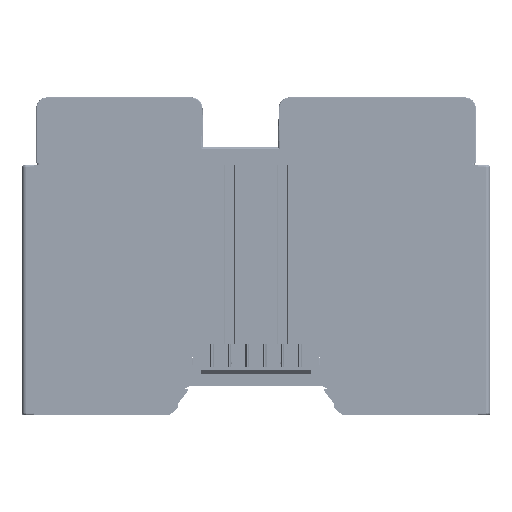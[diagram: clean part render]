
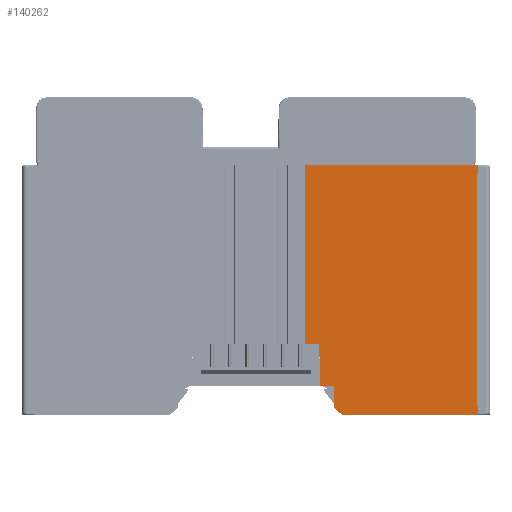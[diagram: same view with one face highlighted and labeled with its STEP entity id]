
A CAD part, left-side view. The second image highlights one B-rep face of the part: STEP entity #140262.
In plain terms, the highlighted planar face has unit normal (-1, 0, 0).
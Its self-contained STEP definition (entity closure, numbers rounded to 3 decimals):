
#19513=DIRECTION('',(0.,-1.,0.));
#19514=VECTOR('',#19513,3.16);
#19515=CARTESIAN_POINT('',(-11.25,-11.2,-40.7));
#19516=LINE('',#19515,#19514);
#29552=DIRECTION('',(0.,-1.,0.));
#29553=VECTOR('',#29552,3.116);
#29554=CARTESIAN_POINT('',(-11.25,-14.612,-50.3));
#29555=LINE('',#29554,#29553);
#29710=CARTESIAN_POINT('',(-11.25,-19.813,-56.7));
#29711=DIRECTION('',(1.,0.,0.));
#29712=DIRECTION('',(0.,0.,-1.));
#29713=AXIS2_PLACEMENT_3D('',#29710,#29711,#29712);
#29715=DIRECTION('',(0.,0.731,0.682));
#29716=VECTOR('',#29715,2.326);
#29717=CARTESIAN_POINT('',(-11.25,-19.608,-56.919));
#29718=LINE('',#29717,#29716);
#29719=CARTESIAN_POINT('',(-11.25,-18.112,-55.114));
#29720=DIRECTION('',(1.,0.,0.));
#29721=DIRECTION('',(0.,0.682,-0.731));
#29722=AXIS2_PLACEMENT_3D('',#29719,#29720,#29721);
#29724=DIRECTION('',(0.,0.017,1.));
#29725=VECTOR('',#29724,4.82);
#29726=CARTESIAN_POINT('',(-11.25,-17.812,-55.119));
#29727=LINE('',#29726,#29725);
#29728=DIRECTION('',(0.,0.026,1.));
#29729=VECTOR('',#29728,9.603);
#29730=CARTESIAN_POINT('',(-11.25,-14.612,-50.3));
#29731=LINE('',#29730,#29729);
#29732=DIRECTION('',(0.,0.,1.));
#29733=VECTOR('',#29732,40.7);
#29734=CARTESIAN_POINT('',(-11.25,-11.2,-40.7));
#29735=LINE('',#29734,#29733);
#29736=DIRECTION('',(0.,-1.,0.));
#29737=VECTOR('',#29736,40.8);
#29738=CARTESIAN_POINT('',(-11.25,-11.2,0.));
#29739=LINE('',#29738,#29737);
#29740=DIRECTION('',(0.,0.114,-0.994));
#29741=VECTOR('',#29740,3.523);
#29742=CARTESIAN_POINT('',(-11.25,-52.,0.));
#29743=LINE('',#29742,#29741);
#29744=DIRECTION('',(0.,-0.114,-0.994));
#29745=VECTOR('',#29744,3.523);
#29746=CARTESIAN_POINT('',(-11.25,-51.6,-53.5));
#29747=LINE('',#29746,#29745);
#29791=DIRECTION('',(0.,-1.,0.));
#29792=VECTOR('',#29791,32.187);
#29793=CARTESIAN_POINT('',(-11.25,-19.813,-57.));
#29794=LINE('',#29793,#29792);
#29820=DIRECTION('',(0.,0.,1.));
#29821=VECTOR('',#29820,50.);
#29822=CARTESIAN_POINT('',(-11.25,-51.6,-53.5));
#29823=LINE('',#29822,#29821);
#93552=CARTESIAN_POINT('',(-11.25,-52.,0.));
#93553=VERTEX_POINT('',#93552);
#93554=CARTESIAN_POINT('',(-11.25,-11.2,0.));
#93555=VERTEX_POINT('',#93554);
#93633=CARTESIAN_POINT('',(-11.25,-19.813,-57.));
#93635=VERTEX_POINT('',#93633);
#93637=CARTESIAN_POINT('',(-11.25,-52.,-57.));
#93638=VERTEX_POINT('',#93637);
#94119=CARTESIAN_POINT('',(-11.25,-51.6,-3.5));
#94121=VERTEX_POINT('',#94119);
#94124=CARTESIAN_POINT('',(-11.25,-51.6,-53.5));
#94125=VERTEX_POINT('',#94124);
#95441=CARTESIAN_POINT('',(-11.25,-11.2,-40.7));
#95442=VERTEX_POINT('',#95441);
#95443=CARTESIAN_POINT('',(-11.25,-14.36,-40.7));
#95444=VERTEX_POINT('',#95443);
#95613=CARTESIAN_POINT('',(-11.25,-14.612,-50.3));
#95614=VERTEX_POINT('',#95613);
#97996=CARTESIAN_POINT('',(-11.25,-17.907,-55.333));
#97997=VERTEX_POINT('',#97996);
#97998=CARTESIAN_POINT('',(-11.25,-19.608,-56.919));
#97999=VERTEX_POINT('',#97998);
#98007=CARTESIAN_POINT('',(-11.25,-17.812,-55.119));
#98008=VERTEX_POINT('',#98007);
#109373=CARTESIAN_POINT('',(-11.25,-17.727,-50.3));
#109374=VERTEX_POINT('',#109373);
#140233=CARTESIAN_POINT('',(-11.25,50.,0.));
#140234=DIRECTION('',(-1.,0.,0.));
#140235=DIRECTION('',(0.,-1.,0.));
#140236=AXIS2_PLACEMENT_3D('',#140233,#140234,#140235);
#140237=PLANE('',#140236);
#140239=ORIENTED_EDGE('',*,*,#140238,.T.);
#140241=ORIENTED_EDGE('',*,*,#140240,.T.);
#140243=ORIENTED_EDGE('',*,*,#140242,.T.);
#140245=ORIENTED_EDGE('',*,*,#140244,.T.);
#140246=ORIENTED_EDGE('',*,*,#139916,.F.);
#140247=ORIENTED_EDGE('',*,*,#138802,.T.);
#140248=ORIENTED_EDGE('',*,*,#127633,.F.);
#140250=ORIENTED_EDGE('',*,*,#140249,.T.);
#140251=ORIENTED_EDGE('',*,*,#109438,.T.);
#140253=ORIENTED_EDGE('',*,*,#140252,.T.);
#140255=ORIENTED_EDGE('',*,*,#140254,.F.);
#140257=ORIENTED_EDGE('',*,*,#140256,.T.);
#140259=ORIENTED_EDGE('',*,*,#140258,.F.);
#140260=EDGE_LOOP('',(#140239,#140241,#140243,#140245,#140246,#140247,#140248,
#140250,#140251,#140253,#140255,#140257,#140259));
#140261=FACE_OUTER_BOUND('',#140260,.F.);
#140262=ADVANCED_FACE('',(#140261),#140237,.T.);
#29714=CIRCLE('',#29713,0.3);
#29723=CIRCLE('',#29722,0.3);
#109438=EDGE_CURVE('',#93555,#93553,#29739,.T.);
#127633=EDGE_CURVE('',#95442,#95444,#19516,.T.);
#138802=EDGE_CURVE('',#95614,#95444,#29731,.T.);
#139916=EDGE_CURVE('',#95614,#109374,#29555,.T.);
#140238=EDGE_CURVE('',#93635,#97999,#29714,.T.);
#140240=EDGE_CURVE('',#97999,#97997,#29718,.T.);
#140242=EDGE_CURVE('',#97997,#98008,#29723,.T.);
#140244=EDGE_CURVE('',#98008,#109374,#29727,.T.);
#140249=EDGE_CURVE('',#95442,#93555,#29735,.T.);
#140252=EDGE_CURVE('',#93553,#94121,#29743,.T.);
#140254=EDGE_CURVE('',#94125,#94121,#29823,.T.);
#140256=EDGE_CURVE('',#94125,#93638,#29747,.T.);
#140258=EDGE_CURVE('',#93635,#93638,#29794,.T.);
